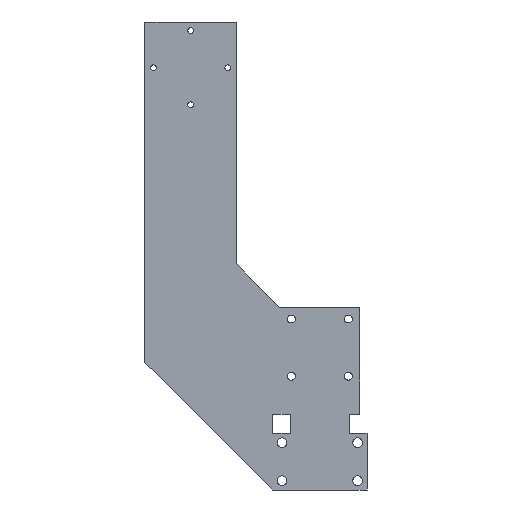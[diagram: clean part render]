
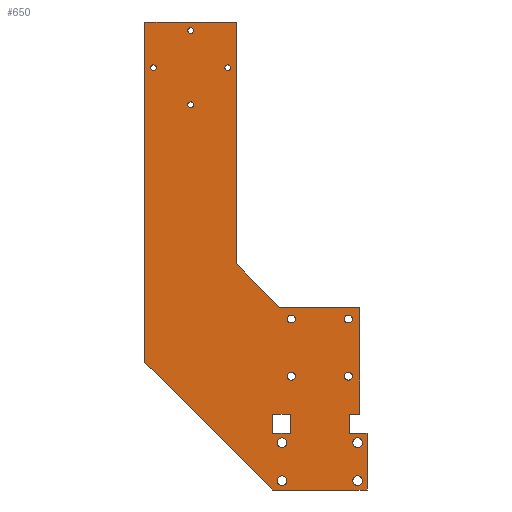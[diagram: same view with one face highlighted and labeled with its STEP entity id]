
A CAD part, left-side view. The second image highlights one B-rep face of the part: STEP entity #650.
In plain terms, the highlighted planar face has unit normal (-1, 0, 0).
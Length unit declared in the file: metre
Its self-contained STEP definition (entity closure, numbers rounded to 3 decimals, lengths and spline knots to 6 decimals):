
#12=CIRCLE('',#687,0.0021);
#14=CIRCLE('',#690,0.0021);
#16=CIRCLE('',#693,0.0021);
#18=CIRCLE('',#696,0.00255);
#20=CIRCLE('',#699,0.00255);
#22=CIRCLE('',#702,0.00255);
#24=CIRCLE('',#705,0.00255);
#26=CIRCLE('',#710,0.0021);
#28=CIRCLE('',#713,0.0015);
#29=CIRCLE('',#714,0.0015);
#30=CIRCLE('',#715,0.0015);
#31=CIRCLE('',#716,0.0015);
#116=ORIENTED_EDGE('',*,*,#267,.T.);
#117=ORIENTED_EDGE('',*,*,#225,.F.);
#118=ORIENTED_EDGE('',*,*,#222,.T.);
#119=ORIENTED_EDGE('',*,*,#264,.T.);
#120=ORIENTED_EDGE('',*,*,#245,.F.);
#121=ORIENTED_EDGE('',*,*,#242,.T.);
#122=ORIENTED_EDGE('',*,*,#239,.T.);
#123=ORIENTED_EDGE('',*,*,#236,.T.);
#124=ORIENTED_EDGE('',*,*,#232,.T.);
#125=ORIENTED_EDGE('',*,*,#268,.T.);
#126=ORIENTED_EDGE('',*,*,#269,.F.);
#127=ORIENTED_EDGE('',*,*,#270,.T.);
#128=ORIENTED_EDGE('',*,*,#212,.F.);
#129=ORIENTED_EDGE('',*,*,#262,.T.);
#130=ORIENTED_EDGE('',*,*,#218,.T.);
#131=ORIENTED_EDGE('',*,*,#215,.T.);
#132=ORIENTED_EDGE('',*,*,#259,.T.);
#133=ORIENTED_EDGE('',*,*,#257,.T.);
#134=ORIENTED_EDGE('',*,*,#255,.T.);
#135=ORIENTED_EDGE('',*,*,#253,.T.);
#136=ORIENTED_EDGE('',*,*,#251,.T.);
#137=ORIENTED_EDGE('',*,*,#249,.T.);
#138=ORIENTED_EDGE('',*,*,#247,.T.);
#139=ORIENTED_EDGE('',*,*,#265,.T.);
#140=ORIENTED_EDGE('',*,*,#271,.T.);
#141=ORIENTED_EDGE('',*,*,#272,.T.);
#142=ORIENTED_EDGE('',*,*,#273,.T.);
#143=ORIENTED_EDGE('',*,*,#274,.T.);
#212=EDGE_CURVE('',#293,#294,#355,.T.);
#215=EDGE_CURVE('',#296,#294,#358,.T.);
#218=EDGE_CURVE('',#298,#296,#361,.T.);
#222=EDGE_CURVE('',#302,#301,#365,.T.);
#225=EDGE_CURVE('',#302,#304,#368,.T.);
#232=EDGE_CURVE('',#307,#310,#375,.T.);
#236=EDGE_CURVE('',#314,#307,#379,.T.);
#239=EDGE_CURVE('',#316,#314,#382,.T.);
#242=EDGE_CURVE('',#318,#316,#385,.T.);
#245=EDGE_CURVE('',#318,#320,#388,.T.);
#247=EDGE_CURVE('',#321,#321,#12,.T.);
#249=EDGE_CURVE('',#323,#323,#14,.T.);
#251=EDGE_CURVE('',#325,#325,#16,.T.);
#253=EDGE_CURVE('',#327,#327,#18,.T.);
#255=EDGE_CURVE('',#329,#329,#20,.T.);
#257=EDGE_CURVE('',#331,#331,#22,.T.);
#259=EDGE_CURVE('',#333,#333,#24,.T.);
#262=EDGE_CURVE('',#293,#298,#391,.T.);
#264=EDGE_CURVE('',#301,#320,#393,.T.);
#265=EDGE_CURVE('',#335,#335,#26,.T.);
#267=EDGE_CURVE('',#337,#304,#394,.T.);
#268=EDGE_CURVE('',#310,#338,#395,.T.);
#269=EDGE_CURVE('',#339,#338,#396,.T.);
#270=EDGE_CURVE('',#339,#337,#397,.T.);
#271=EDGE_CURVE('',#340,#340,#28,.T.);
#272=EDGE_CURVE('',#341,#341,#29,.T.);
#273=EDGE_CURVE('',#342,#342,#30,.T.);
#274=EDGE_CURVE('',#343,#343,#31,.T.);
#293=VERTEX_POINT('',#912);
#294=VERTEX_POINT('',#914);
#296=VERTEX_POINT('',#920);
#298=VERTEX_POINT('',#926);
#301=VERTEX_POINT('',#933);
#302=VERTEX_POINT('',#935);
#304=VERTEX_POINT('',#941);
#307=VERTEX_POINT('',#949);
#310=VERTEX_POINT('',#954);
#314=VERTEX_POINT('',#964);
#316=VERTEX_POINT('',#970);
#318=VERTEX_POINT('',#976);
#320=VERTEX_POINT('',#982);
#321=VERTEX_POINT('',#986);
#323=VERTEX_POINT('',#991);
#325=VERTEX_POINT('',#996);
#327=VERTEX_POINT('',#1001);
#329=VERTEX_POINT('',#1006);
#331=VERTEX_POINT('',#1011);
#333=VERTEX_POINT('',#1016);
#335=VERTEX_POINT('',#1027);
#337=VERTEX_POINT('',#1032);
#338=VERTEX_POINT('',#1034);
#339=VERTEX_POINT('',#1036);
#340=VERTEX_POINT('',#1039);
#341=VERTEX_POINT('',#1041);
#342=VERTEX_POINT('',#1043);
#343=VERTEX_POINT('',#1045);
#355=LINE('',#913,#412);
#358=LINE('',#919,#415);
#361=LINE('',#925,#418);
#365=LINE('',#934,#422);
#368=LINE('',#940,#425);
#375=LINE('',#955,#432);
#379=LINE('',#963,#436);
#382=LINE('',#969,#439);
#385=LINE('',#975,#442);
#388=LINE('',#981,#445);
#391=LINE('',#1021,#448);
#393=LINE('',#1024,#450);
#394=LINE('',#1031,#451);
#395=LINE('',#1033,#452);
#396=LINE('',#1035,#453);
#397=LINE('',#1037,#454);
#412=VECTOR('',#739,1.);
#415=VECTOR('',#744,1.);
#418=VECTOR('',#749,1.);
#422=VECTOR('',#755,1.);
#425=VECTOR('',#760,1.);
#432=VECTOR('',#769,1.);
#436=VECTOR('',#775,1.);
#439=VECTOR('',#780,1.);
#442=VECTOR('',#785,1.);
#445=VECTOR('',#790,1.);
#448=VECTOR('',#837,1.);
#450=VECTOR('',#841,1.);
#451=VECTOR('',#850,1.);
#452=VECTOR('',#851,1.);
#453=VECTOR('',#852,1.);
#454=VECTOR('',#853,1.);
#495=EDGE_LOOP('',(#116,#117,#118,#119,#120,#121,#122,#123,#124,#125,#126,
#127));
#496=EDGE_LOOP('',(#128,#129,#130,#131));
#497=EDGE_LOOP('',(#132));
#498=EDGE_LOOP('',(#133));
#499=EDGE_LOOP('',(#134));
#500=EDGE_LOOP('',(#135));
#501=EDGE_LOOP('',(#136));
#502=EDGE_LOOP('',(#137));
#503=EDGE_LOOP('',(#138));
#504=EDGE_LOOP('',(#139));
#505=EDGE_LOOP('',(#140));
#506=EDGE_LOOP('',(#141));
#507=EDGE_LOOP('',(#142));
#508=EDGE_LOOP('',(#143));
#566=FACE_BOUND('',#495,.T.);
#567=FACE_BOUND('',#496,.T.);
#568=FACE_BOUND('',#497,.T.);
#569=FACE_BOUND('',#498,.T.);
#570=FACE_BOUND('',#499,.T.);
#571=FACE_BOUND('',#500,.T.);
#572=FACE_BOUND('',#501,.T.);
#573=FACE_BOUND('',#502,.T.);
#574=FACE_BOUND('',#503,.T.);
#575=FACE_BOUND('',#504,.T.);
#576=FACE_BOUND('',#505,.T.);
#577=FACE_BOUND('',#506,.T.);
#578=FACE_BOUND('',#507,.T.);
#579=FACE_BOUND('',#508,.T.);
#621=PLANE('',#712);
#650=ADVANCED_FACE('',(#566,#567,#568,#569,#570,#571,#572,#573,#574,#575,
#576,#577,#578,#579),#621,.F.);
#687=AXIS2_PLACEMENT_3D('',#985,#794,#795);
#690=AXIS2_PLACEMENT_3D('',#990,#800,#801);
#693=AXIS2_PLACEMENT_3D('',#995,#806,#807);
#696=AXIS2_PLACEMENT_3D('',#1000,#812,#813);
#699=AXIS2_PLACEMENT_3D('',#1005,#818,#819);
#702=AXIS2_PLACEMENT_3D('',#1010,#824,#825);
#705=AXIS2_PLACEMENT_3D('',#1015,#830,#831);
#710=AXIS2_PLACEMENT_3D('',#1026,#844,#845);
#712=AXIS2_PLACEMENT_3D('',#1030,#848,#849);
#713=AXIS2_PLACEMENT_3D('',#1038,#854,#855);
#714=AXIS2_PLACEMENT_3D('',#1040,#856,#857);
#715=AXIS2_PLACEMENT_3D('',#1042,#858,#859);
#716=AXIS2_PLACEMENT_3D('',#1044,#860,#861);
#739=DIRECTION('',(0.,-1.,0.));
#744=DIRECTION('',(0.,0.,-1.));
#749=DIRECTION('',(0.,-1.,0.));
#755=DIRECTION('',(0.,-1.,0.));
#760=DIRECTION('',(0.,0.707,0.707));
#769=DIRECTION('',(0.,1.,0.));
#775=DIRECTION('',(0.,0.,1.));
#780=DIRECTION('',(0.,-1.,0.));
#785=DIRECTION('',(0.,0.,1.));
#790=DIRECTION('',(0.,-1.,0.));
#794=DIRECTION('',(1.,0.,0.));
#795=DIRECTION('',(0.,0.,-1.));
#800=DIRECTION('',(1.,0.,0.));
#801=DIRECTION('',(0.,0.,-1.));
#806=DIRECTION('',(1.,0.,0.));
#807=DIRECTION('',(0.,0.,-1.));
#812=DIRECTION('',(1.,0.,0.));
#813=DIRECTION('',(0.,0.,-1.));
#818=DIRECTION('',(1.,0.,0.));
#819=DIRECTION('',(0.,0.,-1.));
#824=DIRECTION('',(1.,0.,0.));
#825=DIRECTION('',(0.,0.,-1.));
#830=DIRECTION('',(1.,0.,0.));
#831=DIRECTION('',(0.,0.,-1.));
#837=DIRECTION('',(0.,0.,1.));
#841=DIRECTION('',(0.,0.,1.));
#844=DIRECTION('',(1.,0.,0.));
#845=DIRECTION('',(0.,0.,-1.));
#848=DIRECTION('',(1.,0.,0.));
#849=DIRECTION('',(0.,1.,0.));
#850=DIRECTION('',(0.,0.,-1.));
#851=DIRECTION('',(0.,0.707,0.707));
#852=DIRECTION('',(0.,0.,-1.));
#853=DIRECTION('',(0.,1.,0.));
#854=DIRECTION('',(1.,0.,0.));
#855=DIRECTION('',(0.,0.,-1.));
#856=DIRECTION('',(1.,0.,0.));
#857=DIRECTION('',(0.,0.,-1.));
#858=DIRECTION('',(1.,0.,0.));
#859=DIRECTION('',(0.,0.,-1.));
#860=DIRECTION('',(1.,0.,0.));
#861=DIRECTION('',(0.,0.,-1.));
#912=CARTESIAN_POINT('',(-0.004,0.0248,0.01485));
#913=CARTESIAN_POINT('',(-0.004,0.02015,0.01485));
#914=CARTESIAN_POINT('',(-0.004,0.0155,0.01485));
#919=CARTESIAN_POINT('',(-0.004,0.0155,0.0199));
#920=CARTESIAN_POINT('',(-0.004,0.0155,0.02495));
#925=CARTESIAN_POINT('',(-0.004,0.0183,0.02495));
#926=CARTESIAN_POINT('',(-0.004,0.0248,0.02495));
#933=CARTESIAN_POINT('',(-0.004,-0.0248,-0.01485));
#934=CARTESIAN_POINT('',(-0.004,0.,-0.01485));
#935=CARTESIAN_POINT('',(-0.004,0.0248,-0.01485));
#940=CARTESIAN_POINT('',(-0.004,0.0288,-0.01085));
#941=CARTESIAN_POINT('',(-0.004,0.09192,0.05227));
#949=CARTESIAN_POINT('',(-0.004,-0.0211,0.08113));
#954=CARTESIAN_POINT('',(-0.004,0.0211,0.08113));
#955=CARTESIAN_POINT('',(-0.004,0.,0.08113));
#963=CARTESIAN_POINT('',(-0.004,-0.0211,0.05704));
#964=CARTESIAN_POINT('',(-0.004,-0.0211,0.02495));
#969=CARTESIAN_POINT('',(-0.004,-0.0183,0.02495));
#970=CARTESIAN_POINT('',(-0.004,-0.0155,0.02495));
#975=CARTESIAN_POINT('',(-0.004,-0.0155,0.0199));
#976=CARTESIAN_POINT('',(-0.004,-0.0155,0.01485));
#981=CARTESIAN_POINT('',(-0.004,-0.02015,0.01485));
#982=CARTESIAN_POINT('',(-0.004,-0.0248,0.01485));
#985=CARTESIAN_POINT('',(-0.004,0.015,0.04503));
#986=CARTESIAN_POINT('',(-0.004,0.015,0.04293));
#990=CARTESIAN_POINT('',(-0.004,-0.015,0.07503));
#991=CARTESIAN_POINT('',(-0.004,-0.015,0.07293));
#995=CARTESIAN_POINT('',(-0.004,0.015,0.07503));
#996=CARTESIAN_POINT('',(-0.004,0.015,0.07293));
#1000=CARTESIAN_POINT('',(-0.004,0.01985,-0.01));
#1001=CARTESIAN_POINT('',(-0.004,0.01985,-0.01255));
#1005=CARTESIAN_POINT('',(-0.004,0.01985,0.01));
#1006=CARTESIAN_POINT('',(-0.004,0.01985,0.00745));
#1010=CARTESIAN_POINT('',(-0.004,-0.01985,0.01));
#1011=CARTESIAN_POINT('',(-0.004,-0.01985,0.00745));
#1015=CARTESIAN_POINT('',(-0.004,-0.01985,-0.01));
#1016=CARTESIAN_POINT('',(-0.004,-0.01985,-0.01255));
#1021=CARTESIAN_POINT('',(-0.004,0.0248,0.0199));
#1024=CARTESIAN_POINT('',(-0.004,-0.0248,0.));
#1026=CARTESIAN_POINT('',(-0.004,-0.015,0.04503));
#1027=CARTESIAN_POINT('',(-0.004,-0.015,0.04293));
#1030=CARTESIAN_POINT('',(-0.004,0.03356,0.108146));
#1031=CARTESIAN_POINT('',(-0.004,0.09192,0.141706));
#1032=CARTESIAN_POINT('',(-0.004,0.09192,0.231143));
#1033=CARTESIAN_POINT('',(-0.004,0.03253,0.09256));
#1034=CARTESIAN_POINT('',(-0.004,0.04396,0.10399));
#1035=CARTESIAN_POINT('',(-0.004,0.04396,0.167566));
#1036=CARTESIAN_POINT('',(-0.004,0.04396,0.231143));
#1037=CARTESIAN_POINT('',(-0.004,0.07993,0.231143));
#1038=CARTESIAN_POINT('',(-0.004,0.06794,0.226643));
#1039=CARTESIAN_POINT('',(-0.004,0.06794,0.225143));
#1040=CARTESIAN_POINT('',(-0.004,0.06794,0.187643));
#1041=CARTESIAN_POINT('',(-0.004,0.06794,0.186143));
#1042=CARTESIAN_POINT('',(-0.004,0.08744,0.207098));
#1043=CARTESIAN_POINT('',(-0.004,0.08744,0.205598));
#1044=CARTESIAN_POINT('',(-0.004,0.04844,0.207098));
#1045=CARTESIAN_POINT('',(-0.004,0.04844,0.205598));
